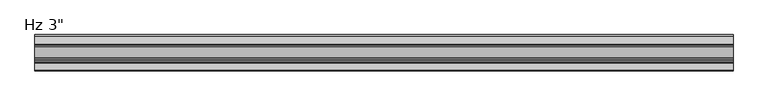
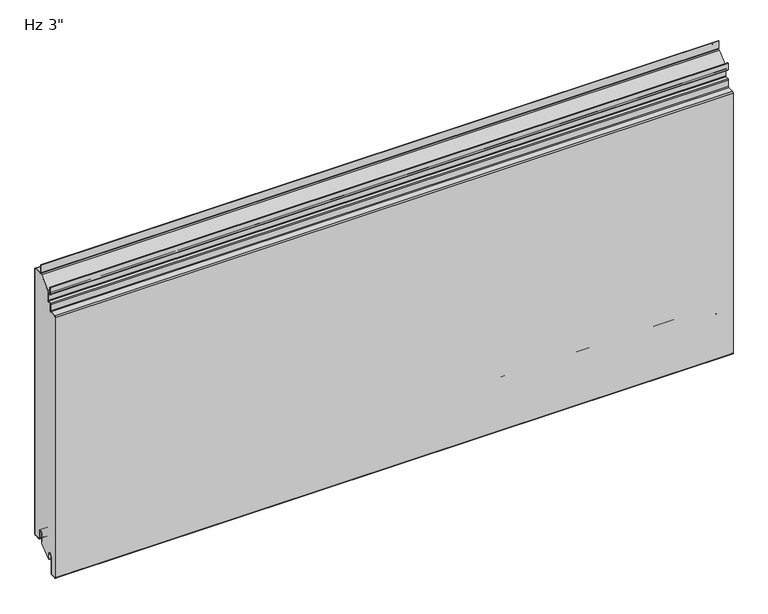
"""IFC4 building model written with IfcOpenShell, lengths in millimetres: plate geometry."""

from ifc_helpers import new_model, si_unit, point, frame, frame_2d, origin, place, context, project, spatial, polyline, circle_curve, ellipse_curve, trimmed, segment, composite_curve, outline, extrude, source, transform, mapped, element, save
from ifc_brep_helpers import plane_surface, cylinder_surface, revolved_surface, extruded_surface, advanced_brep


def plate_52fbea68(model_context):
    return source(origin(), model_context, "Body", "SolidModel", [
        extrude(outline(composite_curve([segment(trimmed(circle_curve(frame_2d((-21.43125, 19.05)), 4.96875), [point((-16.4625, 19.05))], [point((-26.4, 19.05))], True, "CARTESIAN"), True, "CONTINUOUS"), segment(polyline([(-26.4, 19.05), (-26.4, -3.1323422), (-49.2157227, -23.01875), (-50.8, -23.01875), (-50.8, -13.5080174), (-51.59375, -13.5080174), (-51.3875, -11.9205174)]), True, "CONTINUOUS"), segment(trimmed(circle_curve(frame_2d((-56.35625, -11.9205174)), 4.96875), [point((-51.3875, -11.9205174))], [point((-61.325, -11.9205174))], True, "CARTESIAN"), True, "CONTINUOUS"), segment(polyline([(-61.325, -11.9205174), (-61.325, -50.1038221)]), True, "CONTINUOUS"), segment(trimmed(circle_curve(frame_2d((-62.70625, -50.1038221)), 1.38125), [point((-61.325, -50.1038221))], [point((-62.633961, -51.4831791))], False, "CARTESIAN"), True, "CONTINUOUS"), segment(polyline([(-62.633961, -51.4831791), (-73.746461, -52.0655606)]), True, "CONTINUOUS"), segment(trimmed(circle_curve(frame_2d((-73.81875, -50.6862035)), 1.38125), [point((-73.746461, -52.0655606))], [point((-75.2, -50.6862035))], False, "CARTESIAN"), True, "CONTINUOUS"), segment(polyline([(-75.2, -50.6862035), (-75.2, 541.4447607)]), True, "CONTINUOUS"), segment(trimmed(circle_curve(frame_2d((-73.81875, 541.4447607)), 1.38125), [point((-75.2, 541.4447607))], [point((-73.891039, 542.8241177))], False, "CARTESIAN"), True, "CONTINUOUS"), segment(polyline([(-73.891039, 542.8241177), (-60.1895807, 543.5421807)]), True, "CONTINUOUS"), segment(trimmed(circle_curve(frame_2d((-60.325, 546.1261347)), 2.5875), [point((-60.1895807, 543.5421807))], [point((-57.7375, 546.1261347))], True, "CARTESIAN"), True, "CONTINUOUS"), segment(polyline([(-57.7375, 546.1261347), (-57.7375, 560.2824411)]), True, "CONTINUOUS"), segment(trimmed(circle_curve(frame_2d((-56.35625, 560.2824411)), 1.38125), [point((-57.7375, 560.2824411))], [point((-56.428539, 561.6617981))], False, "CARTESIAN"), True, "CONTINUOUS"), segment(polyline([(-56.428539, 561.6617981), (-50.6645807, 561.9638744)]), True, "CONTINUOUS"), segment(trimmed(circle_curve(frame_2d((-50.8, 564.5478283)), 2.5875), [point((-50.6645807, 561.9638744))], [point((-48.2125, 564.5478283))], True, "CARTESIAN"), True, "CONTINUOUS"), segment(polyline([(-48.2125, 564.5478283), (-48.2125, 586.9892934), (-24.9057308, 607.80625), (-2.38125, 607.80625)]), True, "CONTINUOUS"), segment(trimmed(circle_curve(frame_2d((-2.38125, 606.425)), 1.38125), [point((-2.38125, 607.80625))], [point((-1.0, 606.425))], False, "CARTESIAN"), True, "CONTINUOUS"), segment(polyline([(-1.0, 606.425), (-1.0, 3.175)]), True, "CONTINUOUS"), segment(trimmed(circle_curve(frame_2d((-2.38125, 3.175)), 1.38125), [point((-1.0, 3.175))], [point((-2.38125, 1.79375))], False, "CARTESIAN"), True, "CONTINUOUS"), segment(polyline([(-2.38125, 1.79375), (-15.08125, 1.79375)]), True, "CONTINUOUS"), segment(trimmed(circle_curve(frame_2d((-15.08125, 3.175)), 1.38125), [point((-15.08125, 1.79375))], [point((-16.4625, 3.175))], False, "CARTESIAN"), True, "CONTINUOUS"), segment(polyline([(-16.4625, 3.175), (-16.4625, 19.05)]), True, "CONTINUOUS")], self_intersect=False)), frame((-730.0, 0.0, 0.0), z_axis=(1.0, 0.0, 0.0), x_axis=(0.0, 1.0, 0.0)), (0.0, 0.0, 1.0), 1460.0),
        extrude(outline(composite_curve([segment(polyline([(-25.4, 0.79375), (-26.4, 0.79375), (-26.4, 19.05)]), True, "CONTINUOUS"), segment(trimmed(circle_curve(frame_2d((-21.43125, 19.05)), 4.96875), [point((-26.4, 19.05))], [point((-16.4625, 19.05))], False, "CARTESIAN"), True, "CONTINUOUS"), segment(polyline([(-16.4625, 19.05), (-16.4625, 3.175)]), True, "CONTINUOUS"), segment(trimmed(circle_curve(frame_2d((-15.08125, 3.175)), 1.38125), [point((-16.4625, 3.175))], [point((-15.08125, 1.79375))], True, "CARTESIAN"), True, "CONTINUOUS"), segment(polyline([(-15.08125, 1.79375), (-2.38125, 1.79375)]), True, "CONTINUOUS"), segment(trimmed(circle_curve(frame_2d((-2.38125, 3.175)), 1.38125), [point((-2.38125, 1.79375))], [point((-1.0, 3.175))], True, "CARTESIAN"), True, "CONTINUOUS"), segment(polyline([(-1.0, 3.175), (-1.0, 606.425)]), True, "CONTINUOUS"), segment(trimmed(circle_curve(frame_2d((-2.38125, 606.425)), 1.38125), [point((-1.0, 606.425))], [point((-2.38125, 607.80625))], True, "CARTESIAN"), True, "CONTINUOUS"), segment(polyline([(-2.38125, 607.80625), (-19.446875, 607.80625)]), True, "CONTINUOUS"), segment(trimmed(circle_curve(frame_2d((-19.446875, 610.39375)), 2.5875), [point((-19.446875, 607.80625))], [point((-22.034375, 610.39375))], False, "CARTESIAN"), True, "CONTINUOUS"), segment(polyline([(-22.034375, 610.39375), (-22.034375, 627.85625), (-21.034375, 627.85625), (-21.034375, 610.39375)]), True, "CONTINUOUS"), segment(trimmed(circle_curve(frame_2d((-19.446875, 610.39375)), 1.5875), [point((-21.034375, 610.39375))], [point((-19.446875, 608.80625))], True, "CARTESIAN"), True, "CONTINUOUS"), segment(polyline([(-19.446875, 608.80625), (-2.38125, 608.80625)]), True, "CONTINUOUS"), segment(trimmed(circle_curve(frame_2d((-2.38125, 606.425)), 2.38125), [point((-2.38125, 608.80625))], [point((0.0, 606.425))], False, "CARTESIAN"), True, "CONTINUOUS"), segment(polyline([(0.0, 606.425), (0.0, 3.175)]), True, "CONTINUOUS"), segment(trimmed(circle_curve(frame_2d((-2.38125, 3.175)), 2.38125), [point((0.0, 3.175))], [point((-2.38125, 0.79375))], False, "CARTESIAN"), True, "CONTINUOUS"), segment(polyline([(-2.38125, 0.79375), (-15.08125, 0.79375)]), True, "CONTINUOUS"), segment(trimmed(circle_curve(frame_2d((-15.08125, 3.175)), 2.38125), [point((-15.08125, 0.79375))], [point((-17.4625, 3.175))], False, "CARTESIAN"), True, "CONTINUOUS"), segment(polyline([(-17.4625, 3.175), (-17.4625, 19.05)]), True, "CONTINUOUS"), segment(trimmed(circle_curve(frame_2d((-21.43125, 19.05)), 3.96875), [point((-17.4625, 19.05))], [point((-25.4, 19.05))], True, "CARTESIAN"), True, "CONTINUOUS"), segment(polyline([(-25.4, 19.05), (-25.4, 0.79375)]), True, "CONTINUOUS")], self_intersect=False)), frame((-730.0, 0.0, 0.0), z_axis=(1.0, 0.0, 0.0), x_axis=(0.0, 1.0, 0.0)), (0.0, 0.0, 1.0), 1460.0),
        advanced_brep(
        [(-730.0, -50.8, -23.2314549), (-730.0, -52.3875, -23.2314549), (-730.0, -52.3875, -11.9205174), (-730.0, -60.325, -11.9205174), (-730.0, -60.325, -50.1038221), (-730.0, -62.581625, -52.4818086), (-730.0, -73.694125, -53.0641901), (-730.0, -76.2, -50.6862035), (-730.0, -76.2, 541.4447607), (-730.0, -73.943375, 543.8227473), (-730.0, -60.2419167, 544.5408103), (-730.0, -58.7375, 546.1261347), (-730.0, -58.7375, 560.2824411), (-730.0, -56.480875, 562.6604276), (-730.0, -50.7169167, 562.9625039), (-730.0, -49.2125, 564.5478283), (-730.0, -49.2125, 579.4232326), (-730.0, -50.8, 581.0107326), (-730.0, -54.9671875, 581.0107326), (-730.0, -57.3484375, 583.3919826), (-730.0, -57.3484375, 597.8836032), (-730.0, -55.5546875, 597.8836032), (-730.0, -55.5546875, 588.1544826), (-730.0, -56.3484375, 588.1544826), (-730.0, -56.3484375, 583.3919826), (-730.0, -54.9671875, 582.0107326), (-730.0, -50.8, 582.0107326), (-730.0, -48.2125, 579.4232326), (-730.0, -48.2125, 564.5478283), (-730.0, -50.6645807, 561.9638744), (-730.0, -56.428539, 561.6617981), (-730.0, -57.7375, 560.2824411), (-730.0, -57.7375, 546.1261347), (-730.0, -60.1895807, 543.5421807), (-730.0, -73.891039, 542.8241177), (-730.0, -75.2, 541.4447607), (-730.0, -75.2, -50.6862035), (-730.0, -73.746461, -52.0655606), (-730.0, -62.633961, -51.4831791), (-730.0, -61.325, -50.1038221), (-730.0, -61.325, -11.9205174), (-730.0, -51.3875, -11.9205174), (-730.0, -51.59375, -13.5080174), (-730.0, -50.8, -13.5080174), (730.0, -50.8, -23.2314549), (730.0, -50.8, -13.5080174), (730.0, -51.59375, -13.5080174), (730.0, -51.3875, -11.9205174), (730.0, -61.325, -11.9205174), (730.0, -61.325, -50.1038221), (730.0, -62.633961, -51.4831791), (730.0, -73.746461, -52.0655606), (730.0, -75.2, -50.6862035), (730.0, -75.2, 541.4447607), (730.0, -73.891039, 542.8241177), (730.0, -60.1895807, 543.5421807), (730.0, -57.7375, 546.1261347), (730.0, -57.7375, 560.2824411), (730.0, -56.428539, 561.6617981), (730.0, -50.6645807, 561.9638744), (730.0, -48.2125, 564.5478283), (730.0, -48.2125, 579.4232326), (730.0, -50.8, 582.0107326), (730.0, -54.9671875, 582.0107326), (730.0, -56.3484375, 583.3919826), (730.0, -56.3484375, 588.1544826), (730.0, -55.5546875, 588.1544826), (730.0, -55.5546875, 597.8836032), (730.0, -57.3484375, 597.8836032), (730.0, -57.3484375, 583.3919826), (730.0, -54.9671875, 581.0107326), (730.0, -50.8, 581.0107326), (730.0, -49.2125, 579.4232326), (730.0, -49.2125, 564.5478283), (730.0, -50.7169167, 562.9625039), (730.0, -56.480875, 562.6604276), (730.0, -58.7375, 560.2824411), (730.0, -58.7375, 546.1261347), (730.0, -60.2419167, 544.5408103), (730.0, -73.943375, 543.8227473), (730.0, -76.2, 541.4447607), (730.0, -76.2, -50.6862035), (730.0, -73.694125, -53.0641901), (730.0, -62.581625, -52.4818086), (730.0, -60.325, -50.1038221), (730.0, -60.325, -11.9205174), (730.0, -52.3875, -11.9205174), (730.0, -52.3875, -23.2314549)],
        [
            (0, 1, circle_curve(frame((-730.0, -51.59375, -23.2314549), z_axis=(-1.0, 0.0, 0.0), x_axis=(0.0, 0.0, 1.0)), 0.79375)),
            (1, 2),
            (2, 3, circle_curve(frame((-730.0, -56.35625, -11.9205174), z_axis=(1.0, 0.0, 0.0), x_axis=(0.0, 0.0, 1.0)), 3.96875)),
            (3, 4),
            (4, 5, circle_curve(frame((-730.0, -62.70625, -50.1038221), z_axis=(-1.0, 0.0, 0.0), x_axis=(0.0, 0.0, 1.0)), 2.38125)),
            (5, 6),
            (6, 7, circle_curve(frame((-730.0, -73.81875, -50.6862035), z_axis=(-1.0, 0.0, 0.0), x_axis=(0.0, 0.0, 1.0)), 2.38125)),
            (7, 8),
            (8, 9, circle_curve(frame((-730.0, -73.81875, 541.4447607), z_axis=(-1.0, 0.0, 0.0), x_axis=(0.0, 0.0, 1.0)), 2.38125)),
            (9, 10),
            (10, 11, circle_curve(frame((-730.0, -60.325, 546.1261347), z_axis=(1.0, 0.0, 0.0), x_axis=(0.0, 0.0, 1.0)), 1.5875)),
            (11, 12),
            (12, 13, circle_curve(frame((-730.0, -56.35625, 560.2824411), z_axis=(-1.0, 0.0, 0.0), x_axis=(0.0, 0.0, 1.0)), 2.38125)),
            (13, 14),
            (14, 15, circle_curve(frame((-730.0, -50.8, 564.5478283), z_axis=(1.0, 0.0, 0.0), x_axis=(0.0, 0.0, 1.0)), 1.5875)),
            (15, 16),
            (16, 17, circle_curve(frame((-730.0, -50.8, 579.4232326), z_axis=(1.0, 0.0, 0.0), x_axis=(0.0, 0.0, 1.0)), 1.5875)),
            (17, 18),
            (18, 19, circle_curve(frame((-730.0, -54.9671875, 583.3919826), z_axis=(-1.0, 0.0, 0.0), x_axis=(0.0, 0.0, 1.0)), 2.38125)),
            (19, 20),
            (20, 21, ellipse_curve(frame((-730.0, -56.4515625, 597.8836032), z_axis=(-1.0, 0.0, 0.0), x_axis=(0.0, 1.0, 0.0)), 0.896875, 0.7852275)),
            (21, 22),
            (22, 23),
            (23, 24),
            (24, 25, circle_curve(frame((-730.0, -54.9671875, 583.3919826), z_axis=(1.0, 0.0, 0.0), x_axis=(0.0, 0.0, 1.0)), 1.38125)),
            (25, 26),
            (26, 27, circle_curve(frame((-730.0, -50.8, 579.4232326), z_axis=(-1.0, 0.0, 0.0), x_axis=(0.0, 0.0, 1.0)), 2.5875)),
            (27, 28),
            (28, 29, circle_curve(frame((-730.0, -50.8, 564.5478283), z_axis=(-1.0, 0.0, 0.0), x_axis=(0.0, 0.0, 1.0)), 2.5875)),
            (29, 30),
            (30, 31, circle_curve(frame((-730.0, -56.35625, 560.2824411), z_axis=(1.0, 0.0, 0.0), x_axis=(0.0, 0.0, 1.0)), 1.38125)),
            (31, 32),
            (32, 33, circle_curve(frame((-730.0, -60.325, 546.1261347), z_axis=(-1.0, 0.0, 0.0), x_axis=(0.0, 0.0, 1.0)), 2.5875)),
            (33, 34),
            (34, 35, circle_curve(frame((-730.0, -73.81875, 541.4447607), z_axis=(1.0, 0.0, 0.0), x_axis=(0.0, 0.0, 1.0)), 1.38125)),
            (35, 36),
            (36, 37, circle_curve(frame((-730.0, -73.81875, -50.6862035), z_axis=(1.0, 0.0, 0.0), x_axis=(0.0, 0.0, 1.0)), 1.38125)),
            (37, 38),
            (38, 39, circle_curve(frame((-730.0, -62.70625, -50.1038221), z_axis=(1.0, 0.0, 0.0), x_axis=(0.0, 0.0, 1.0)), 1.38125)),
            (39, 40),
            (40, 41, circle_curve(frame((-730.0, -56.35625, -11.9205174), z_axis=(-1.0, 0.0, 0.0), x_axis=(0.0, 0.0, 1.0)), 4.96875)),
            (41, 42),
            (42, 43),
            (43, 0),
            (44, 45),
            (45, 46),
            (46, 47),
            (47, 48, circle_curve(frame((730.0, -56.35625, -11.9205174), z_axis=(1.0, 0.0, 0.0), x_axis=(0.0, 0.0, 1.0)), 4.96875)),
            (48, 49),
            (49, 50, circle_curve(frame((730.0, -62.70625, -50.1038221), z_axis=(-1.0, 0.0, 0.0), x_axis=(0.0, 0.0, 1.0)), 1.38125)),
            (50, 51),
            (51, 52, circle_curve(frame((730.0, -73.81875, -50.6862035), z_axis=(-1.0, 0.0, 0.0), x_axis=(0.0, 0.0, 1.0)), 1.38125)),
            (52, 53),
            (53, 54, circle_curve(frame((730.0, -73.81875, 541.4447607), z_axis=(-1.0, 0.0, 0.0), x_axis=(0.0, 0.0, 1.0)), 1.38125)),
            (54, 55),
            (55, 56, circle_curve(frame((730.0, -60.325, 546.1261347), z_axis=(1.0, 0.0, 0.0), x_axis=(0.0, 0.0, 1.0)), 2.5875)),
            (56, 57),
            (57, 58, circle_curve(frame((730.0, -56.35625, 560.2824411), z_axis=(-1.0, 0.0, 0.0), x_axis=(0.0, 0.0, 1.0)), 1.38125)),
            (58, 59),
            (59, 60, circle_curve(frame((730.0, -50.8, 564.5478283), z_axis=(1.0, 0.0, 0.0), x_axis=(0.0, 0.0, 1.0)), 2.5875)),
            (60, 61),
            (61, 62, circle_curve(frame((730.0, -50.8, 579.4232326), z_axis=(1.0, 0.0, 0.0), x_axis=(0.0, 0.0, 1.0)), 2.5875)),
            (62, 63),
            (63, 64, circle_curve(frame((730.0, -54.9671875, 583.3919826), z_axis=(-1.0, 0.0, 0.0), x_axis=(0.0, 0.0, 1.0)), 1.38125)),
            (64, 65),
            (65, 66),
            (66, 67),
            (67, 68, ellipse_curve(frame((730.0, -56.4515625, 597.8836032), z_axis=(1.0, 0.0, 0.0), x_axis=(0.0, 1.0, 0.0)), 0.896875, 0.7852275)),
            (68, 69),
            (69, 70, circle_curve(frame((730.0, -54.9671875, 583.3919826), z_axis=(1.0, 0.0, 0.0), x_axis=(0.0, 0.0, 1.0)), 2.38125)),
            (70, 71),
            (71, 72, circle_curve(frame((730.0, -50.8, 579.4232326), z_axis=(-1.0, 0.0, 0.0), x_axis=(0.0, 0.0, 1.0)), 1.5875)),
            (72, 73),
            (73, 74, circle_curve(frame((730.0, -50.8, 564.5478283), z_axis=(-1.0, 0.0, 0.0), x_axis=(0.0, 0.0, 1.0)), 1.5875)),
            (74, 75),
            (75, 76, circle_curve(frame((730.0, -56.35625, 560.2824411), z_axis=(1.0, 0.0, 0.0), x_axis=(0.0, 0.0, 1.0)), 2.38125)),
            (76, 77),
            (77, 78, circle_curve(frame((730.0, -60.325, 546.1261347), z_axis=(-1.0, 0.0, 0.0), x_axis=(0.0, 0.0, 1.0)), 1.5875)),
            (78, 79),
            (79, 80, circle_curve(frame((730.0, -73.81875, 541.4447607), z_axis=(1.0, 0.0, 0.0), x_axis=(0.0, 0.0, 1.0)), 2.38125)),
            (80, 81),
            (81, 82, circle_curve(frame((730.0, -73.81875, -50.6862035), z_axis=(1.0, 0.0, 0.0), x_axis=(0.0, 0.0, 1.0)), 2.38125)),
            (82, 83),
            (83, 84, circle_curve(frame((730.0, -62.70625, -50.1038221), z_axis=(1.0, 0.0, 0.0), x_axis=(0.0, 0.0, 1.0)), 2.38125)),
            (84, 85),
            (85, 86, circle_curve(frame((730.0, -56.35625, -11.9205174), z_axis=(-1.0, 0.0, 0.0), x_axis=(0.0, 0.0, 1.0)), 3.96875)),
            (86, 87),
            (87, 44, circle_curve(frame((730.0, -51.59375, -23.2314549), z_axis=(1.0, 0.0, 0.0), x_axis=(0.0, 0.0, 1.0)), 0.79375)),
            (43, 45),
            (44, 0),
            (36, 52),
            (51, 37),
            (50, 38),
            (49, 39),
            (48, 40),
            (47, 41),
            (42, 46),
            (22, 66),
            (65, 23),
            (21, 67),
            (20, 68),
            (34, 54),
            (53, 35),
            (32, 56),
            (55, 33),
            (30, 58),
            (57, 31),
            (28, 60),
            (59, 29),
            (24, 64),
            (63, 25),
            (26, 62),
            (61, 27),
            (19, 69),
            (17, 71),
            (70, 18),
            (15, 73),
            (72, 16),
            (13, 75),
            (74, 14),
            (11, 77),
            (76, 12),
            (9, 79),
            (78, 10),
            (7, 81),
            (80, 8),
            (5, 83),
            (82, 6),
            (3, 85),
            (84, 4),
            (1, 87),
            (86, 2),
        ],
        [
            plane_surface(frame((-730.0, -76.2, 304.8), z_axis=(-1.0, 0.0, 0.0), x_axis=(0.0, -1.0, 0.0))),
            plane_surface(frame((730.0, -76.2, 304.8), z_axis=(1.0, 0.0, 0.0), x_axis=(0.0, -1.0, 0.0))),
            plane_surface(frame((-730.0, -50.8, -23.2314549), z_axis=(0.0, 1.0, 0.0), x_axis=(1.0, 0.0, 0.0))),
            revolved_surface(polyline([(730.0, -73.81875, -49.304953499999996), (-730.0, -73.81875, -49.304953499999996)]), (-730.0, -73.81875, -50.6862035), (1.0, 0.0, 0.0)),
            plane_surface(frame((-730.0, -62.633961, -51.4831791), z_axis=(0.0, -0.052335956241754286, 0.9986295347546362), x_axis=(1.0, 0.0, 0.0))),
            revolved_surface(polyline([(730.0, -62.70625, -48.7225721), (-730.0, -62.70625, -48.7225721)]), (-730.0, -62.70625, -50.1038221), (1.0, 0.0, 0.0)),
            plane_surface(frame((-730.0, -61.325, -11.9205174), z_axis=(0.0, -1.0, 0.0), x_axis=(1.0, 0.0, 0.0))),
            cylinder_surface(frame((-730.0, -56.35625, -11.9205174), z_axis=(-1.0, 0.0, 0.0), x_axis=(0.0, 0.0, 1.0)), 4.96875),
            plane_surface(frame((-730.0, -50.8, -13.5080174), z_axis=(0.0, 0.0, 1.0), x_axis=(1.0, 0.0, 0.0))),
            plane_surface(frame((-730.0, -51.59375, -13.5080174), z_axis=(0.0, 0.9916655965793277, -0.12883844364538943), x_axis=(1.0, 0.0, 0.0))),
            plane_surface(frame((-730.0, -56.3484375, 588.1544826), z_axis=(0.0, 0.0, -1.0), x_axis=(1.0, 0.0, 0.0))),
            plane_surface(frame((-730.0, -55.5546875, 588.1544826), z_axis=(0.0, 1.0, 0.0), x_axis=(1.0, 0.0, 0.0))),
            extruded_surface(trimmed(ellipse_curve(frame((-730.0, -56.4515625, 597.8836032), z_axis=(1.0, 0.0, 0.0), x_axis=(0.0, 1.0, 0.0)), 0.896875, 0.7852275), [point((-730.0, -55.5546875, 597.8836032))], [point((-730.0, -57.3484375, 597.8836032))], True, "CARTESIAN"), (1460.0, 0.0, 0.0), 1460.0),
            revolved_surface(polyline([(730.0, -73.81875, 542.8260107), (-730.0, -73.81875, 542.8260107)]), (-730.0, -73.81875, 541.4447607), (1.0, 0.0, 0.0)),
            cylinder_surface(frame((-730.0, -60.325, 546.1261347), z_axis=(-1.0, 0.0, 0.0), x_axis=(0.0, 0.0, 1.0)), 2.5875),
            plane_surface(frame((-730.0, -73.891039, 542.8241177), z_axis=(0.0, 0.052335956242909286, -0.9986295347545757), x_axis=(1.0, 0.0, 0.0))),
            plane_surface(frame((-730.0, -75.2, -50.6862035), z_axis=(0.0, 1.0, 0.0), x_axis=(1.0, 0.0, 0.0))),
            revolved_surface(polyline([(730.0, -56.35625, 561.6636911), (-730.0, -56.35625, 561.6636911)]), (-730.0, -56.35625, 560.2824411), (1.0, 0.0, 0.0)),
            cylinder_surface(frame((-730.0, -50.8, 564.5478283), z_axis=(-1.0, 0.0, 0.0), x_axis=(0.0, 0.0, 1.0)), 2.5875),
            plane_surface(frame((-730.0, -56.428539, 561.6617981), z_axis=(0.0, 0.0523359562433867, -0.9986295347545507), x_axis=(1.0, 0.0, 0.0))),
            plane_surface(frame((-730.0, -57.7375, 546.1261347), z_axis=(0.0, 1.0, 0.0), x_axis=(1.0, 0.0, 0.0))),
            revolved_surface(polyline([(730.0, -54.9671875, 584.7732326), (-730.0, -54.9671875, 584.7732326)]), (-730.0, -54.9671875, 583.3919826), (1.0, 0.0, 0.0)),
            cylinder_surface(frame((-730.0, -50.8, 579.4232326), z_axis=(-1.0, 0.0, 0.0), x_axis=(0.0, 0.0, 1.0)), 2.5875),
            plane_surface(frame((-730.0, -50.8, 582.0107326), z_axis=(0.0, 0.0, 1.0), x_axis=(1.0, 0.0, 0.0))),
            plane_surface(frame((-730.0, -56.3484375, 583.3919826), z_axis=(0.0, 1.0, 0.0), x_axis=(1.0, 0.0, 0.0))),
            plane_surface(frame((-730.0, -57.3484375, 597.8836032), z_axis=(0.0, -1.0, 0.0), x_axis=(1.0, 0.0, 0.0))),
            plane_surface(frame((-730.0, -54.9671875, 581.0107326), z_axis=(0.0, 0.0, -1.0), x_axis=(1.0, 0.0, 0.0))),
            cylinder_surface(frame((-730.0, -54.9671875, 583.3919826), z_axis=(-1.0, 0.0, 0.0), x_axis=(0.0, 0.0, 1.0)), 2.38125),
            plane_surface(frame((-730.0, -48.2125, 564.5478283), z_axis=(0.0, 1.0, 0.0), x_axis=(1.0, 0.0, 0.0))),
            plane_surface(frame((-730.0, -49.2125, 579.4232326), z_axis=(0.0, -1.0, 0.0), x_axis=(1.0, 0.0, 0.0))),
            plane_surface(frame((-730.0, -50.7169167, 562.9625039), z_axis=(0.0, -0.052335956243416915, 0.9986295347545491), x_axis=(1.0, 0.0, 0.0))),
            revolved_surface(polyline([(730.0, -50.8, 566.1353283), (-730.0, -50.8, 566.1353283)]), (-730.0, -50.8, 564.5478283), (1.0, 0.0, 0.0)),
            revolved_surface(polyline([(730.0, -50.8, 581.0107326), (-730.0, -50.8, 581.0107326)]), (-730.0, -50.8, 579.4232326), (1.0, 0.0, 0.0)),
            plane_surface(frame((-730.0, -58.7375, 560.2824411), z_axis=(0.0, -1.0, 0.0), x_axis=(1.0, 0.0, 0.0))),
            plane_surface(frame((-730.0, -60.2419167, 544.5408103), z_axis=(0.0, -0.052335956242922, 0.998629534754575), x_axis=(1.0, 0.0, 0.0))),
            revolved_surface(polyline([(730.0, -60.325, 547.7136347), (-730.0, -60.325, 547.7136347)]), (-730.0, -60.325, 546.1261347), (1.0, 0.0, 0.0)),
            cylinder_surface(frame((-730.0, -56.35625, 560.2824411), z_axis=(-1.0, 0.0, 0.0), x_axis=(0.0, 0.0, 1.0)), 2.38125),
            plane_surface(frame((-730.0, -76.2, 541.4447607), z_axis=(0.0, -1.0, 0.0), x_axis=(1.0, 0.0, 0.0))),
            plane_surface(frame((-730.0, -73.694125, -53.0641901), z_axis=(0.0, 0.052335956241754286, -0.9986295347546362), x_axis=(1.0, 0.0, 0.0))),
            cylinder_surface(frame((-730.0, -73.81875, -50.6862035), z_axis=(-1.0, 0.0, 0.0), x_axis=(0.0, 0.0, 1.0)), 2.38125),
            cylinder_surface(frame((-730.0, -73.81875, 541.4447607), z_axis=(-1.0, 0.0, 0.0), x_axis=(0.0, 0.0, 1.0)), 2.38125),
            plane_surface(frame((-730.0, -60.325, -50.1038221), z_axis=(0.0, 1.0, 0.0), x_axis=(1.0, 0.0, 0.0))),
            plane_surface(frame((-730.0, -52.3875, -11.9205174), z_axis=(0.0, -1.0, 0.0), x_axis=(1.0, 0.0, 0.0))),
            revolved_surface(polyline([(730.0, -56.35625, -7.9517674), (-730.0, -56.35625, -7.9517674)]), (-730.0, -56.35625, -11.9205174), (1.0, 0.0, 0.0)),
            cylinder_surface(frame((-730.0, -62.70625, -50.1038221), z_axis=(-1.0, 0.0, 0.0), x_axis=(0.0, 0.0, 1.0)), 2.38125),
            cylinder_surface(frame((-730.0, -51.59375, -23.2314549), z_axis=(-1.0, 0.0, 0.0), x_axis=(0.0, 0.0, 1.0)), 0.79375),
        ],
        [
            (0, [[1, 2, 3, 4, 5, 6, 7, 8, 9, 10, 11, 12, 13, 14, 15, 16, 17, 18, 19, 20, 21, 22, 23, 24, 25, 26, 27, 28, 29, 30, 31, 32, 33, 34, 35, 36, 37, 38, 39, 40, 41, 42, 43, 44]]),
            (1, [[45, 46, 47, 48, 49, 50, 51, 52, 53, 54, 55, 56, 57, 58, 59, 60, 61, 62, 63, 64, 65, 66, 67, 68, 69, 70, 71, 72, 73, 74, 75, 76, 77, 78, 79, 80, 81, 82, 83, 84, 85, 86, 87, 88]]),
            (2, [[89, -45, 90, -44]]),
            (3, [[91, -52, 92, -37]]),
            (4, [[-92, -51, 93, -38]]),
            (5, [[-93, -50, 94, -39]]),
            (6, [[-94, -49, 95, -40]]),
            (7, [[-95, -48, 96, -41]]),
            (8, [[97, -46, -89, -43]]),
            (9, [[-96, -47, -97, -42]]),
            (10, [[98, -66, 99, -23]]),
            (11, [[100, -67, -98, -22]]),
            (12, [[101, -68, -100, -21]]),
            (13, [[102, -54, 103, -35]]),
            (14, [[104, -56, 105, -33]]),
            (15, [[-105, -55, -102, -34]]),
            (16, [[-103, -53, -91, -36]]),
            (17, [[106, -58, 107, -31]]),
            (18, [[108, -60, 109, -29]]),
            (19, [[-109, -59, -106, -30]]),
            (20, [[-107, -57, -104, -32]]),
            (21, [[110, -64, 111, -25]]),
            (22, [[112, -62, 113, -27]]),
            (23, [[-111, -63, -112, -26]]),
            (24, [[-99, -65, -110, -24]]),
            (25, [[114, -69, -101, -20]]),
            (26, [[115, -71, 116, -18]]),
            (27, [[-116, -70, -114, -19]]),
            (28, [[-113, -61, -108, -28]]),
            (29, [[117, -73, 118, -16]]),
            (30, [[119, -75, 120, -14]]),
            (31, [[-120, -74, -117, -15]]),
            (32, [[-118, -72, -115, -17]]),
            (33, [[121, -77, 122, -12]]),
            (34, [[123, -79, 124, -10]]),
            (35, [[-124, -78, -121, -11]]),
            (36, [[-122, -76, -119, -13]]),
            (37, [[125, -81, 126, -8]]),
            (38, [[127, -83, 128, -6]]),
            (39, [[-128, -82, -125, -7]]),
            (40, [[-126, -80, -123, -9]]),
            (41, [[129, -85, 130, -4]]),
            (42, [[131, -87, 132, -2]]),
            (43, [[-132, -86, -129, -3]]),
            (44, [[-130, -84, -127, -5]]),
            (45, [[-90, -88, -131, -1]]),
        ],
    ),
    ])


if __name__ == "__main__":
    model = new_model("IFC4")
    model_context = context("Model", 3, world=origin())
    ifc_project = project(units=[si_unit("LENGTHUNIT", "METRE", prefix="MILLI")], contexts=[model_context])
    site = spatial("IfcSite", under=ifc_project)
    building = spatial("IfcBuilding", under=site)
    placement = place(None, origin())
    plate_shape = plate_52fbea68(model_context)
    element("IfcPlate", 1, ObjectType="KIP-24-DWHR-R19-CP-Hz-F : Hz 3\"", at=placement, inside=building, context=model_context, shape_type="MappedRepresentation", body=[
        mapped(plate_shape, transform((0.0, 0.0, 0.0), x_axis=(1.0, 0.0, 0.0), y_axis=(0.0, 1.0, 0.0), z_axis=(0.0, 0.0, 1.0))),
    ])
    save(model, "model.ifc")
